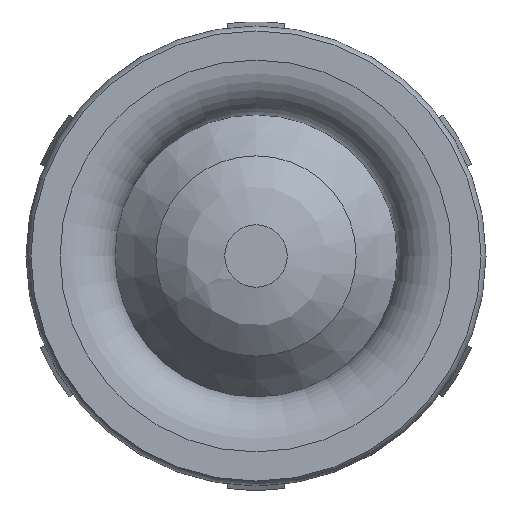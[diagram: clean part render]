
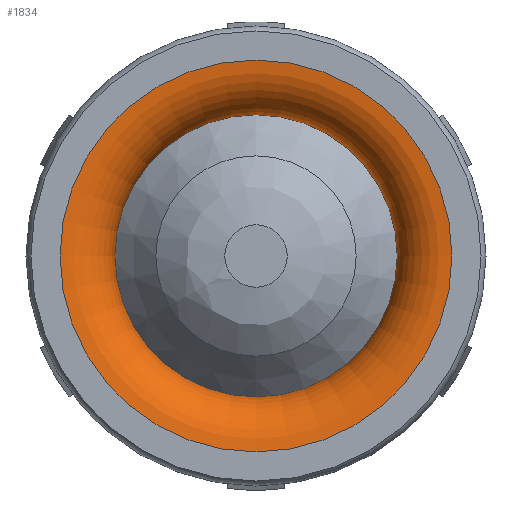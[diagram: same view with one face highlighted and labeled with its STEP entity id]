
A CAD part, left-side view. The second image highlights one B-rep face of the part: STEP entity #1834.
In plain terms, the highlighted toroidal (fillet/blend) face has major radius 21.5 mm and minor radius 6 mm.
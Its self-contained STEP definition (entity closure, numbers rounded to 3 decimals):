
#1807=CARTESIAN_POINT('',(6.,0.0,0.0));
#1808=DIRECTION('',(1.0,0.0,0.0));
#1809=DIRECTION('',(0.0,0.0,-1.0));
#1810=AXIS2_PLACEMENT_3D('',#1807,#1808,#1809);
#1811=TOROIDAL_SURFACE('',#1810,21.5,6.);
#1812=CARTESIAN_POINT('',(6.,15.5,0.0));
#1813=VERTEX_POINT('',#1812);
#1814=CARTESIAN_POINT('',(6.,0.0,0.0));
#1815=DIRECTION('',(1.0,0.0,0.0));
#1816=DIRECTION('',(0.0,-1.0,0.0));
#1817=AXIS2_PLACEMENT_3D('',#1814,#1815,#1816);
#1818=CIRCLE('',#1817,15.5);
#1819=EDGE_CURVE('',#1813,#1813,#1818,.T.);
#1820=ORIENTED_EDGE('',*,*,#1819,.T.);
#1821=EDGE_LOOP('',(#1820));
#1822=FACE_OUTER_BOUND('',#1821,.T.);
#1823=CARTESIAN_POINT('',(0.,21.5,0.));
#1824=VERTEX_POINT('',#1823);
#1825=CARTESIAN_POINT('',(0.,0.0,0.0));
#1826=DIRECTION('',(-1.0,0.0,0.0));
#1827=DIRECTION('',(0.0,-1.0,0.0));
#1828=AXIS2_PLACEMENT_3D('',#1825,#1826,#1827);
#1829=CIRCLE('',#1828,21.5);
#1830=EDGE_CURVE('',#1824,#1824,#1829,.T.);
#1831=ORIENTED_EDGE('',*,*,#1830,.T.);
#1832=EDGE_LOOP('',(#1831));
#1833=FACE_BOUND('',#1832,.T.);
#1834=ADVANCED_FACE('',(#1822,#1833),#1811,.T.);
